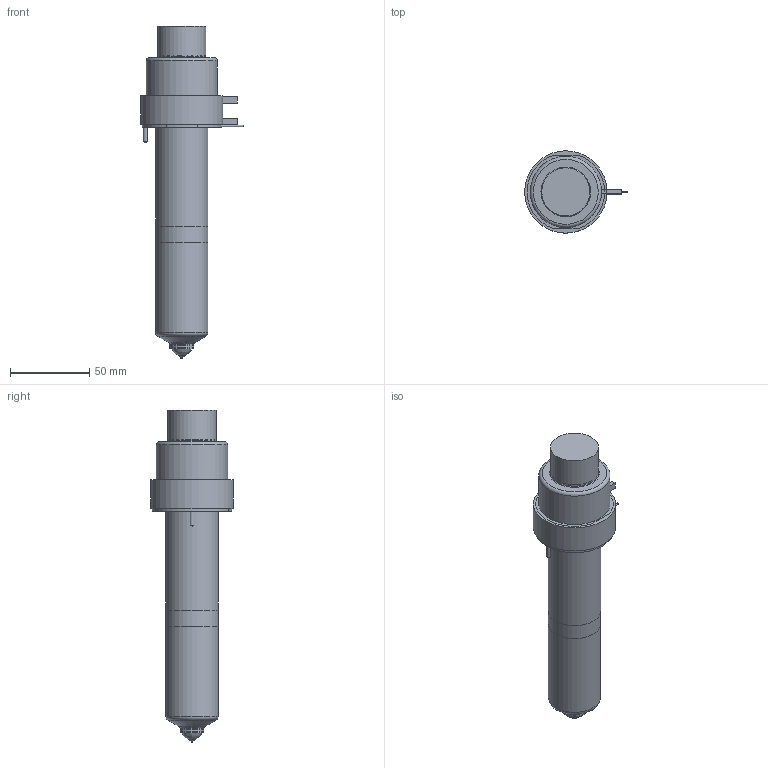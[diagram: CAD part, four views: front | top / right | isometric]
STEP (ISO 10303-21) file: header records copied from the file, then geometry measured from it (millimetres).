
FILE_DESCRIPTION(/* description */ (''),/* implementation_level */ '2;1');
FILE_NAME(/* name */ 'SXTT-SXIT19145_250C_b',/* time_stamp */ '2007-01-24T17:20:40+13:00',/* author */ (''),/* organization */ (''),/* preprocessor_version */ 'ST-DEVELOPER v9',/* originating_system */ 'UGS - NX 4.0',/* authorisation */ '');
FILE_SCHEMA (('CONFIG_CONTROL_DESIGN'));
Length unit declared in the file: millimetre
Products named in the file (1): SXTT-SXIT19145_250C_b
Bounding box: 64.85 x 52 x 209.68 mm (x, y, z)
Volume: 369172 mm3; surface area: 53581.3 mm2
Topology: 7 solids, 7 shells, 96 faces, 188 edges, 120 vertices
Faces by surface type: plane 45, cylinder 28, cone 11, torus 10, bspline 2
Full cylindrical faces by diameter (mm): 1 x3, 1.2 x1, 2.5 x2, 8 x1, 14.61 x1, 15.01 x2, 18.3 x1, 28.6 x1, 30 x1, 30.4 x1, 33 x2, 38.1 x1, 45 x1, 50 x1, 52 x1
Entity records: 2353 total; most frequent: CARTESIAN_POINT 477, DIRECTION 396, ORIENTED_EDGE 276, AXIS2_PLACEMENT_3D 173, EDGE_LOOP 150, EDGE_CURVE 138, VERTEX_POINT 111, ADVANCED_FACE 96
